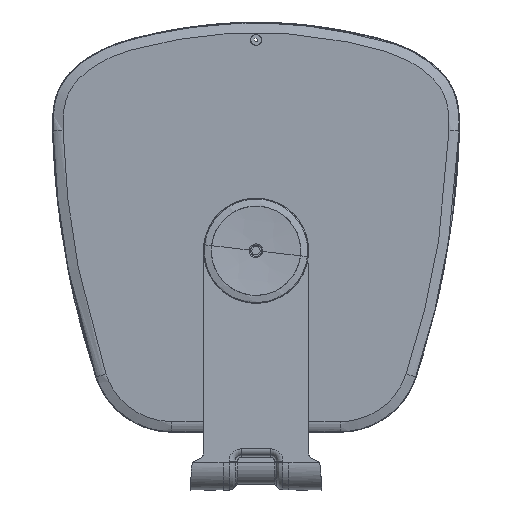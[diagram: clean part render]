
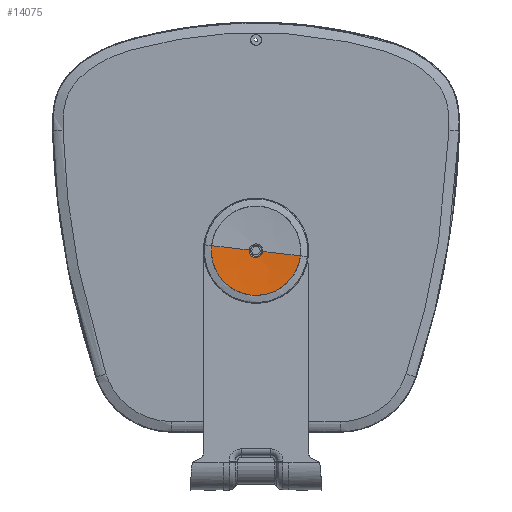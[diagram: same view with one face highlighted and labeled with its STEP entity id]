
A CAD part, front view. The second image highlights one B-rep face of the part: STEP entity #14075.
In plain terms, the highlighted free-form (B-spline) face has degree [3, 3] with [4, 4] control points.
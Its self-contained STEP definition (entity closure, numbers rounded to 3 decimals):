
#1813 = CARTESIAN_POINT ( 'NONE',  ( -22.786, 8.539, -34.362 ) ) ;
#3424 = AXIS2_PLACEMENT_3D ( 'NONE', #29327, #28380, #47770 ) ;
#3740 = CARTESIAN_POINT ( 'NONE',  ( -0.547, 6.535, 5.174 ) ) ;
#3849 = CARTESIAN_POINT ( 'NONE',  ( -2.567, 6.535, 4.526 ) ) ;
#4134 = EDGE_CURVE ( 'NONE', #36614, #46078, #31429, .T. ) ;
#4157 = CARTESIAN_POINT ( 'NONE',  ( -0.631, 6.535, -5.165 ) ) ;
#4488 = CARTESIAN_POINT ( 'NONE',  ( -4.482, 6.535, -2.642 ) ) ;
#4751 = ORIENTED_EDGE ( 'NONE', *, *, #4134, .F. ) ;
#4798 = CARTESIAN_POINT ( 'NONE',  ( -5.198, 6.535, -0.233 ) ) ;
#5304 = CARTESIAN_POINT ( 'NONE',  ( -22.786, 8.539, 34.362 ) ) ;
#7490 = CIRCLE ( 'NONE', #3424, 386.083 ) ;
#8919 = CARTESIAN_POINT ( 'NONE',  ( -4.391, 6.535, 2.79 ) ) ;
#9233 = CARTESIAN_POINT ( 'NONE',  ( -2.983, 6.535, -4.263 ) ) ;
#9563 = CARTESIAN_POINT ( 'NONE',  ( -3.239, 6.535, -4.072 ) ) ;
#10076 = FACE_OUTER_BOUND ( 'NONE', #14706, .T. ) ;
#10147 = AXIS2_PLACEMENT_3D ( 'NONE', #30403, #34879, #25971 ) ;
#10180 = CARTESIAN_POINT ( 'NONE',  ( -2.439, 6.535, -4.596 ) ) ;
#11599 = VERTEX_POINT ( 'NONE', #41180 ) ;
#11931 = CARTESIAN_POINT ( 'NONE',  ( -11.398, 8.032, -34.362 ) ) ;
#13794 = EDGE_CURVE ( 'NONE', #61223, #22581, #42269, .T. ) ;
#14075 = ADVANCED_FACE ( 'NONE', ( #10076 ), #56880, .F. ) ;
#14706 = EDGE_LOOP ( 'NONE', ( #4751, #17968, #40258, #41090, #15794 ) ) ;
#15794 = ORIENTED_EDGE ( 'NONE', *, *, #20728, .T. ) ;
#16688 = CIRCLE ( 'NONE', #22731, 386.083 ) ;
#17968 = ORIENTED_EDGE ( 'NONE', *, *, #18540, .T. ) ;
#18079 = CARTESIAN_POINT ( 'NONE',  ( -1.085, 6.535, 5.079 ) ) ;
#18399 = CARTESIAN_POINT ( 'NONE',  ( -3.807, 6.535, 3.547 ) ) ;
#18540 = EDGE_CURVE ( 'NONE', #36614, #61223, #7490, .T. ) ;
#19267 = CARTESIAN_POINT ( 'NONE',  ( -22.907, 6.497, -11.484 ) ) ;
#19894 = CARTESIAN_POINT ( 'NONE',  ( -34.321, 7.514, 11.484 ) ) ;
#19991 = CARTESIAN_POINT ( 'NONE',  ( -5.099, 6.535, 1.033 ) ) ;
#20728 = EDGE_CURVE ( 'NONE', #11599, #46078, #16688, .T. ) ;
#20833 = CARTESIAN_POINT ( 'NONE',  ( -11.459, 5.988, -11.484 ) ) ;
#21135 = CARTESIAN_POINT ( 'NONE',  ( 0., 8.032, -34.362 ) ) ;
#22302 = CARTESIAN_POINT ( 'NONE',  ( 0., 392.583, 0. ) ) ;
#22581 = VERTEX_POINT ( 'NONE', #47247 ) ;
#22731 = AXIS2_PLACEMENT_3D ( 'NONE', #22302, #42036, #61726 ) ;
#24034 = CARTESIAN_POINT ( 'NONE',  ( 0., 5.988, 11.484 ) ) ;
#24130 = CARTESIAN_POINT ( 'NONE',  ( -2.155, 6.535, -4.736 ) ) ;
#24655 = CARTESIAN_POINT ( 'NONE',  ( -11.398, 8.032, 34.362 ) ) ;
#25971 = DIRECTION ( 'NONE',  ( 0., 0., 1. ) ) ;
#27216 = CARTESIAN_POINT ( 'NONE',  ( -1.085, 6.535, 5.079 ) ) ;
#27963 = CARTESIAN_POINT ( 'NONE',  ( -1.701, 6.535, 4.917 ) ) ;
#28270 = CARTESIAN_POINT ( 'NONE',  ( -5.153, 6.535, 0.722 ) ) ;
#28380 = DIRECTION ( 'NONE',  ( 1., 0., 0. ) ) ;
#28585 = CARTESIAN_POINT ( 'NONE',  ( -1.565, 6.535, -4.962 ) ) ;
#29220 = CARTESIAN_POINT ( 'NONE',  ( -4.825, 6.535, 1.947 ) ) ;
#29327 = CARTESIAN_POINT ( 'NONE',  ( 0., 392.583, 0. ) ) ;
#29423 = CARTESIAN_POINT ( 'NONE',  ( -34.139, 9.551, 34.362 ) ) ;
#30403 = CARTESIAN_POINT ( 'NONE',  ( 0., 7.996, 0. ) ) ;
#31429 = CIRCLE ( 'NONE', #10147, 33.955 ) ;
#31609 = CARTESIAN_POINT ( 'NONE',  ( 0., 5.988, -11.484 ) ) ;
#32735 = CARTESIAN_POINT ( 'NONE',  ( -1.398, 6.535, 5.012 ) ) ;
#33360 = CARTESIAN_POINT ( 'NONE',  ( -3.708, 6.535, -3.65 ) ) ;
#33668 = CARTESIAN_POINT ( 'NONE',  ( -4.888, 6.535, -1.782 ) ) ;
#34879 = DIRECTION ( 'NONE',  ( 0., -1., 0. ) ) ;
#36081 = CARTESIAN_POINT ( 'NONE',  ( -34.139, 9.551, -34.362 ) ) ;
#36614 = VERTEX_POINT ( 'NONE', #48836 ) ;
#37808 = CARTESIAN_POINT ( 'NONE',  ( -4.019, 6.535, 3.305 ) ) ;
#38126 = CARTESIAN_POINT ( 'NONE',  ( -1.256, 6.535, -5.049 ) ) ;
#38335 = CARTESIAN_POINT ( 'NONE',  ( 0., 8.032, 34.362 ) ) ;
#38791 = CARTESIAN_POINT ( 'NONE',  ( 0., 6.535, 5.193 ) ) ;
#39371 = CARTESIAN_POINT ( 'NONE',  ( 0., 6.535, -5.193 ) ) ;
#39576 = CARTESIAN_POINT ( 'NONE',  ( -22.907, 6.497, 11.484 ) ) ;
#40258 = ORIENTED_EDGE ( 'NONE', *, *, #13794, .T. ) ;
#41090 = ORIENTED_EDGE ( 'NONE', *, *, #56399, .T. ) ;
#41180 = CARTESIAN_POINT ( 'NONE',  ( 0., 6.535, -5.193 ) ) ;
#42036 = DIRECTION ( 'NONE',  ( 1., 0., 0. ) ) ;
#42269 = B_SPLINE_CURVE_WITH_KNOTS ( 'NONE', 3,
 ( #62510, #56169, #3740, #57413, #27216 ),
 .UNSPECIFIED., .F., .F.,
 ( 4, 1, 4 ),
 ( 0., 0.001, 0.001 ),
 .UNSPECIFIED. ) ;
#42572 = CARTESIAN_POINT ( 'NONE',  ( -3.101, 6.535, 4.178 ) ) ;
#43440 = CARTESIAN_POINT ( 'NONE',  ( -34.321, 7.514, -11.484 ) ) ;
#43851 = CARTESIAN_POINT ( 'NONE',  ( -4.553, 6.535, 2.519 ) ) ;
#46078 = VERTEX_POINT ( 'NONE', #62839 ) ;
#47247 = CARTESIAN_POINT ( 'NONE',  ( -1.085, 6.535, 5.079 ) ) ;
#47337 = CARTESIAN_POINT ( 'NONE',  ( -2.284, 6.535, 4.675 ) ) ;
#47770 = DIRECTION ( 'NONE',  ( 0., 0., 1. ) ) ;
#47984 = CARTESIAN_POINT ( 'NONE',  ( -5.131, 6.535, -0.862 ) ) ;
#48298 = CARTESIAN_POINT ( 'NONE',  ( -5.202, 6.535, 0.089 ) ) ;
#48836 = CARTESIAN_POINT ( 'NONE',  ( 0., 7.996, 33.955 ) ) ;
#50099 = B_SPLINE_CURVE_WITH_KNOTS ( 'NONE', 3,
 ( #18079, #32735, #27963, #47337, #3849, #42572, #61957, #18399, #37808, #8919, #43851, #29220, #58773, #19991, #28270, #48298, #4798, #47984, #52750, #33668, #53405, #4488, #52441, #53081, #33360, #9563, #9233, #10180, #24130, #28585, #38126, #4157, #53701, #39371 ),
 .UNSPECIFIED., .F., .F.,
 ( 4, 2, 2, 2, 2, 2, 2, 2, 2, 2, 2, 2, 2, 2, 2, 2, 4 ),
 ( 0.001, 0.002, 0.003, 0.004, 0.005, 0.006, 0.007, 0.008, 0.009, 0.01, 0.011, 0.012, 0.013, 0.014, 0.014, 0.015, 0.016 ),
 .UNSPECIFIED. ) ;
#52441 = CARTESIAN_POINT ( 'NONE',  ( -4.313, 6.535, -2.91 ) ) ;
#52750 = CARTESIAN_POINT ( 'NONE',  ( -5.069, 6.535, -1.172 ) ) ;
#53081 = CARTESIAN_POINT ( 'NONE',  ( -3.924, 6.535, -3.417 ) ) ;
#53405 = CARTESIAN_POINT ( 'NONE',  ( -4.769, 6.535, -2.08 ) ) ;
#53701 = CARTESIAN_POINT ( 'NONE',  ( -0.316, 6.535, -5.193 ) ) ;
#56169 = CARTESIAN_POINT ( 'NONE',  ( -0.183, 6.535, 5.193 ) ) ;
#56399 = EDGE_CURVE ( 'NONE', #22581, #11599, #50099, .T. ) ;
#56880 =( BOUNDED_SURFACE ( )  B_SPLINE_SURFACE ( 3, 3, ( 
 ( #29423, #5304, #24655, #38335 ),
 ( #19894, #39576, #57722, #24034 ),
 ( #43440, #19267, #20833, #31609 ),
 ( #36081, #1813, #11931, #21135 ) ),
 .UNSPECIFIED., .F., .F., .F. ) 
 B_SPLINE_SURFACE_WITH_KNOTS ( ( 4, 4 ),
 ( 4, 4 ),
 ( 0., 1. ),
 ( 0., 1. ),
 .UNSPECIFIED. ) 
 GEOMETRIC_REPRESENTATION_ITEM ( )  RATIONAL_B_SPLINE_SURFACE ( (
 ( 1., 0.999, 0.999, 1.),
 ( 0.997, 0.997, 0.997, 0.997),
 ( 0.997, 0.997, 0.997, 0.997),
 ( 1., 0.999, 0.999, 1.) ) ) 
 REPRESENTATION_ITEM ( '' )  SURFACE ( )  );
#57413 = CARTESIAN_POINT ( 'NONE',  ( -0.906, 6.535, 5.117 ) ) ;
#57722 = CARTESIAN_POINT ( 'NONE',  ( -11.459, 5.988, 11.484 ) ) ;
#58773 = CARTESIAN_POINT ( 'NONE',  ( -4.936, 6.535, 1.645 ) ) ;
#61223 = VERTEX_POINT ( 'NONE', #38791 ) ;
#61726 = DIRECTION ( 'NONE',  ( 0., 0., 1. ) ) ;
#61957 = CARTESIAN_POINT ( 'NONE',  ( -3.349, 6.535, 3.982 ) ) ;
#62510 = CARTESIAN_POINT ( 'NONE',  ( 0., 6.535, 5.193 ) ) ;
#62839 = CARTESIAN_POINT ( 'NONE',  ( 0., 7.996, -33.955 ) ) ;
